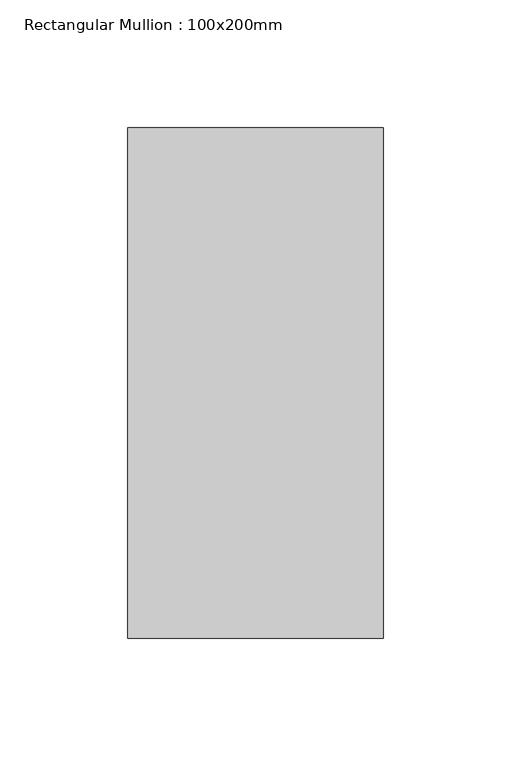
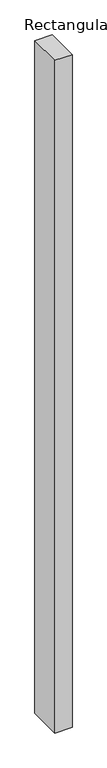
"""IFC4 building model written with IfcOpenShell, lengths in millimetres: member geometry, Rectangular Mullion : 100x200mm."""

from ifc_helpers import new_model, si_unit, frame, origin, place, context, project, spatial, polyline, outline, extrude, source, transform, mapped, element, save


def rectangular_mullion_100x200mm_3ded0ffc(model_context):
    return source(origin(), model_context, "Body", "SweptSolid", [
        extrude(outline(polyline([(0.0, 100.0), (0.0, -100.0), (-100.0, -100.0), (-100.0, 100.0), (0.0, 100.0)])), frame((0.0, 0.0, -4130.0), z_axis=(0.0, 0.0, 1.0), x_axis=(1.0, 0.0, 0.0)), (0.0, 0.0, 1.0), 4130.0),
    ])


if __name__ == "__main__":
    model = new_model("IFC4")
    model_context = context("Model", 3, world=origin())
    ifc_project = project(units=[si_unit("LENGTHUNIT", "METRE", prefix="MILLI")], contexts=[model_context])
    site = spatial("IfcSite", under=ifc_project)
    building = spatial("IfcBuilding", under=site)
    placement = place(None, origin())
    rectangular_mullion_100x200mm_shape = rectangular_mullion_100x200mm_3ded0ffc(model_context)
    element("IfcMember", 1, ObjectType="Rectangular Mullion : 100x200mm", at=placement, inside=building, context=model_context, shape_type="MappedRepresentation", body=[
        mapped(rectangular_mullion_100x200mm_shape, transform((0.0, 0.0, 0.0), x_axis=(1.0, 0.0, 0.0), y_axis=(0.0, 1.0, 0.0), z_axis=(0.0, 0.0, 1.0))),
    ])
    save(model, "model.ifc")
